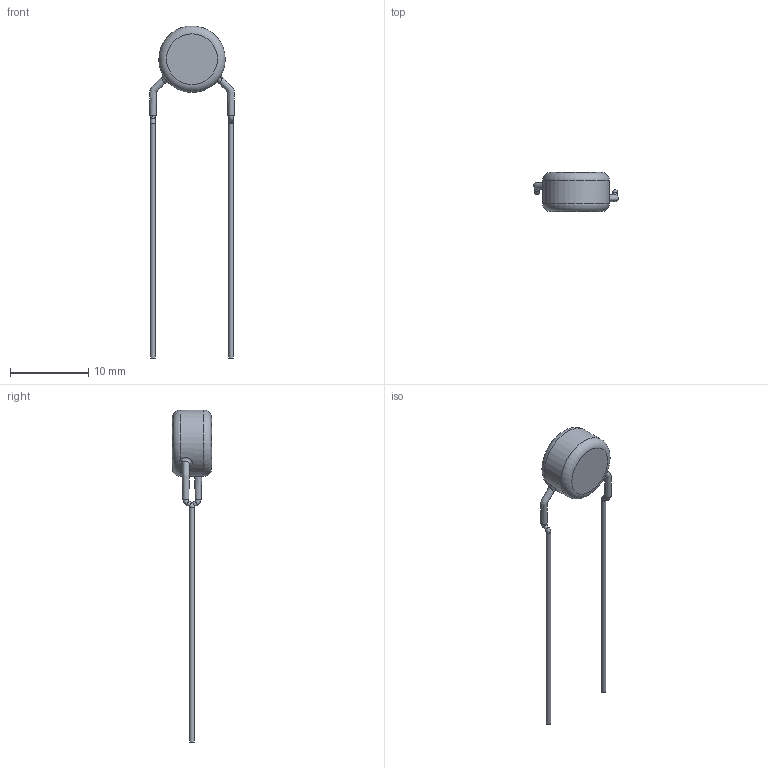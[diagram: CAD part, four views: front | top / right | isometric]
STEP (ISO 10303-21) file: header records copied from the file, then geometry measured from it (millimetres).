
FILE_DESCRIPTION(/* description */ (''),/* implementation_level */ '2;1');
FILE_NAME(/* name */ 'I:\Marketing\M6t1\3D-Models\Zchng-Werk-3\Upload for homepage\BCC\AY2\Inline Dia 0,6 LS 10\AY2152K31Y5US63V0.stp',/* time_stamp */ '2020-11-05T15:59:53+01:00',/* author */ ('truediger'),/* organization */ (''),/* preprocessor_version */ 'ST-DEVELOPER v18',/* originating_system */ 'Autodesk Inventor 2020',/* authorisation */ '');
FILE_SCHEMA (('AUTOMOTIVE_DESIGN { 1 0 10303 214 3 1 1 }'));
Length unit declared in the file: millimetre
Products named in the file (1): Bauteil7
Bounding box: 10.84 x 5 x 42.5 mm (x, y, z)
Volume: 297.2 mm3; surface area: 369.4 mm2
Topology: 1 solids, 1 shells, 29 faces, 73 edges, 48 vertices
Faces by surface type: cylinder 9, bspline 8, torus 6, plane 6
Full cylindrical faces by diameter (mm): 0.6 x4, 8.5 x1
Entity records: 2331 total; most frequent: CARTESIAN_POINT 1590, ORIENTED_EDGE 146, DIRECTION 141, EDGE_CURVE 73, AXIS2_PLACEMENT_3D 68, VERTEX_POINT 48, CIRCLE 44, EDGE_LOOP 31
